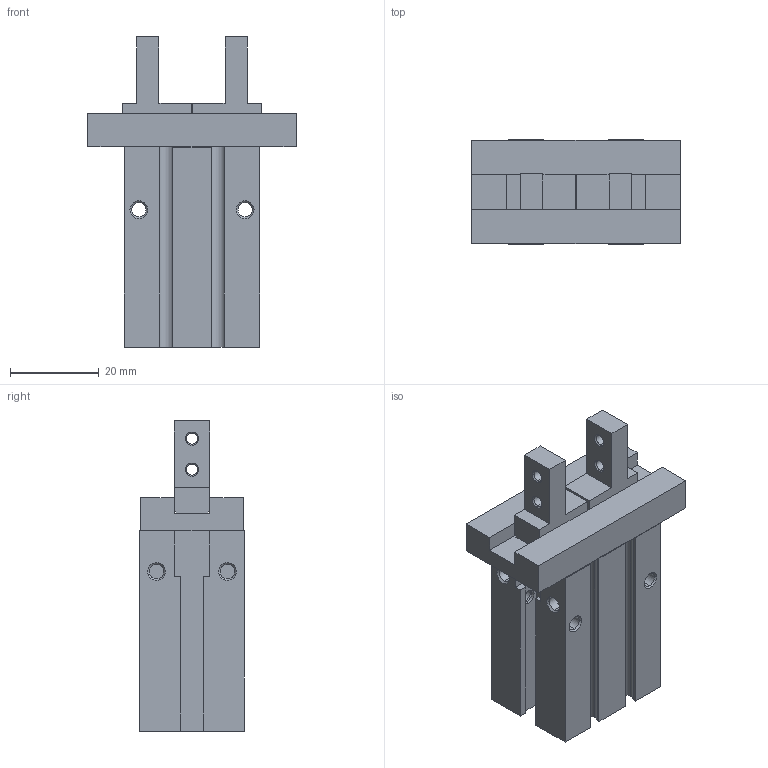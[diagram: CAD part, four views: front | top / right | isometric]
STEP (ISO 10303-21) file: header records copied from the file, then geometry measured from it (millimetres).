
FILE_DESCRIPTION (( 'STEP AP203' ), '1' );
FILE_NAME ('GMHZL2-16D.STEP', '2024-07-24T07:33:17', ( '微软用户' ), ( '微软中国' ), 'SwSTEP 2.0', 'SolidWorks 2018', '' );
FILE_SCHEMA (( 'CONFIG_CONTROL_DESIGN' ));
Length unit declared in the file: millimetre
Products named in the file (3): _MHZL2-16D_Body(0); _MHZL2-16D_Finger(0); GMHZL2-16D
Assembly tree (3 placements, depth 2):
  GMHZL2-16D
    _MHZL2-16D_Body(0)
    _MHZL2-16D_Finger(0)  x2
Bounding box: 47 x 23.6 x 70 mm (x, y, z)
Volume: 34927.3 mm3; surface area: 13820.8 mm2
Topology: 3 solids, 3 shells, 220 faces, 562 edges, 358 vertices
Faces by surface type: plane 124, cylinder 52, cone 44
Entity records: 6121 total; most frequent: DIRECTION 1024, CARTESIAN_POINT 1024, ORIENTED_EDGE 980, EDGE_CURVE 490, AXIS2_PLACEMENT_3D 346, VECTOR 332, LINE 332, VERTEX_POINT 314
